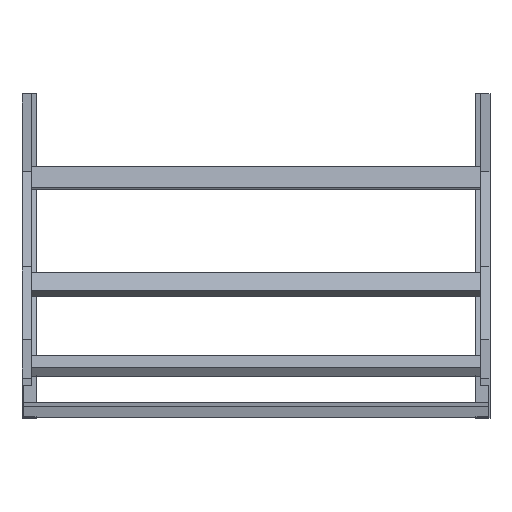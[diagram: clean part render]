
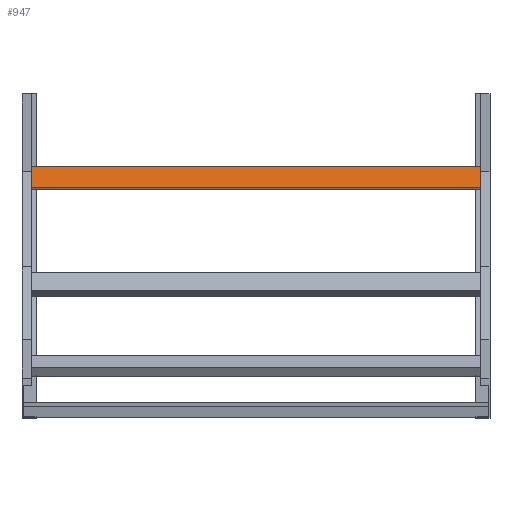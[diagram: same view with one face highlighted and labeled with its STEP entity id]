
A CAD part, top view. The second image highlights one B-rep face of the part: STEP entity #947.
In plain terms, the highlighted planar face has unit normal (0, 0.195, 0.981) as drawn and (0, 1, 0) by its records, which use the part's own axes.
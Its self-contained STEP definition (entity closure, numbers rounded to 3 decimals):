
#28 = EDGE_CURVE ( 'NONE', #1685, #1571, #273, .T. ) ;
#36 = EDGE_CURVE ( 'NONE', #1256, #1624, #520, .T. ) ;
#69 = VECTOR ( 'NONE', #965, 1000. ) ;
#71 = CARTESIAN_POINT ( 'NONE',  ( 448., 20., -20.25 ) ) ;
#77 = EDGE_CURVE ( 'NONE', #1571, #1624, #88, .T. ) ;
#88 = LINE ( 'NONE', #1245, #1461 ) ;
#118 = CARTESIAN_POINT ( 'NONE',  ( 448., 20., -20.25 ) ) ;
#204 = CARTESIAN_POINT ( 'NONE',  ( -448., 20., 20.25 ) ) ;
#273 = LINE ( 'NONE', #1537, #1067 ) ;
#274 = EDGE_LOOP ( 'NONE', ( #653, #859, #1625, #1762 ) ) ;
#375 = DIRECTION ( 'NONE',  ( 0., -1., 0. ) ) ;
#401 = CARTESIAN_POINT ( 'NONE',  ( -448., 20., 20.25 ) ) ;
#520 = LINE ( 'NONE', #401, #69 ) ;
#648 = DIRECTION ( 'NONE',  ( 0., 0., 1. ) ) ;
#652 = DIRECTION ( 'NONE',  ( -1., 0., 0. ) ) ;
#653 = ORIENTED_EDGE ( 'NONE', *, *, #36, .T. ) ;
#655 = CARTESIAN_POINT ( 'NONE',  ( 448., 20., 20.25 ) ) ;
#810 = FACE_OUTER_BOUND ( 'NONE', #274, .T. ) ;
#859 = ORIENTED_EDGE ( 'NONE', *, *, #77, .F. ) ;
#879 = VECTOR ( 'NONE', #652, 1000. ) ;
#947 = ADVANCED_FACE ( 'NONE', ( #810 ), #1242, .F. ) ;
#965 = DIRECTION ( 'NONE',  ( 0., 0., 1. ) ) ;
#1067 = VECTOR ( 'NONE', #648, 1000. ) ;
#1104 = AXIS2_PLACEMENT_3D ( 'NONE', #655, #375, #1366 ) ;
#1242 = PLANE ( 'NONE',  #1104 ) ;
#1245 = CARTESIAN_POINT ( 'NONE',  ( 448., 20., 20.25 ) ) ;
#1256 = VERTEX_POINT ( 'NONE', #1514 ) ;
#1345 = EDGE_CURVE ( 'NONE', #1685, #1256, #1666, .T. ) ;
#1366 = DIRECTION ( 'NONE',  ( 0., 0., -1. ) ) ;
#1461 = VECTOR ( 'NONE', #1840, 1000. ) ;
#1472 = CARTESIAN_POINT ( 'NONE',  ( 448., 20., 20.25 ) ) ;
#1514 = CARTESIAN_POINT ( 'NONE',  ( -448., 20., -20.25 ) ) ;
#1537 = CARTESIAN_POINT ( 'NONE',  ( 448., 20., 20.25 ) ) ;
#1571 = VERTEX_POINT ( 'NONE', #1472 ) ;
#1624 = VERTEX_POINT ( 'NONE', #204 ) ;
#1625 = ORIENTED_EDGE ( 'NONE', *, *, #28, .F. ) ;
#1666 = LINE ( 'NONE', #71, #879 ) ;
#1685 = VERTEX_POINT ( 'NONE', #118 ) ;
#1762 = ORIENTED_EDGE ( 'NONE', *, *, #1345, .T. ) ;
#1840 = DIRECTION ( 'NONE',  ( -1., 0., 0. ) ) ;
